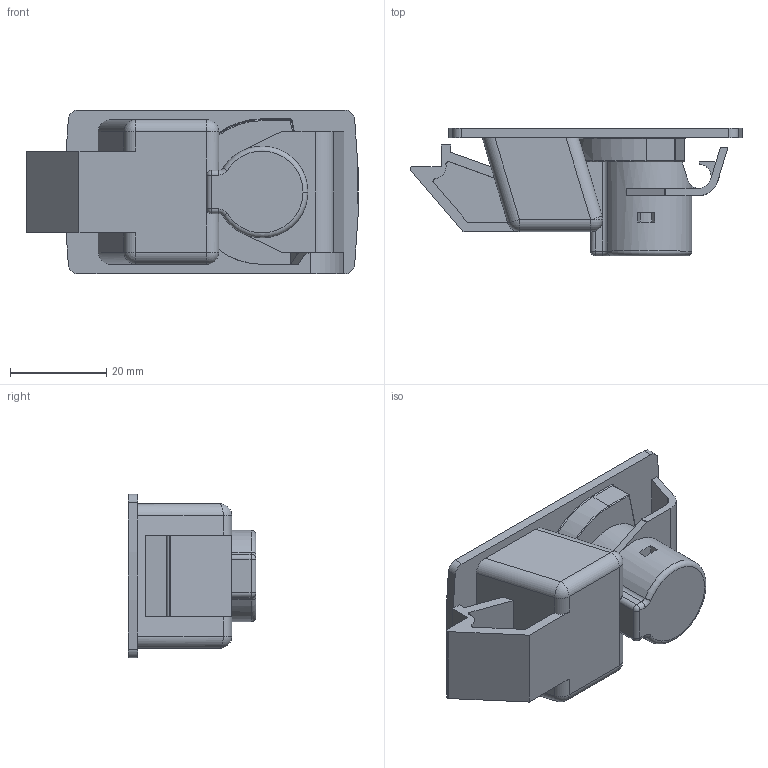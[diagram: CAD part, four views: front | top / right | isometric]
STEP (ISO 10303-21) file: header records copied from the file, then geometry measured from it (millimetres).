
FILE_DESCRIPTION (( 'STEP AP203' ), '1' );
FILE_NAME ('SK4-026.STEP', '2018-11-02T05:18:34', ( 'admin' ), ( 'Microsoft' ), 'SwSTEP 2.0', 'SolidWorks 2015', '' );
FILE_SCHEMA (( 'CONFIG_CONTROL_DESIGN' ));
Length unit declared in the file: millimetre
Products named in the file (1): SK4-026
Bounding box: 68.91 x 26.5 x 34 mm (x, y, z)
Volume: 18525.2 mm3; surface area: 12050.9 mm2
Topology: 1 solids, 1 shells, 184 faces, 470 edges, 284 vertices
Faces by surface type: cylinder 74, plane 73, torus 17, sphere 16, bspline 4
Entity records: 5672 total; most frequent: CARTESIAN_POINT 1161, DIRECTION 977, ORIENTED_EDGE 916, EDGE_CURVE 458, AXIS2_PLACEMENT_3D 366, VERTEX_POINT 284, VECTOR 245, LINE 245
